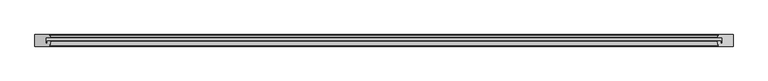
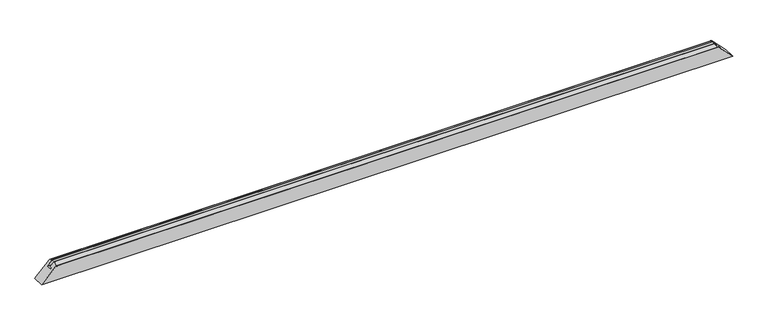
"""IFC4 building model written with IfcOpenShell, lengths in millimetres: proxy geometry, Weiku - Montante - Caixilho fixo 02.2.01.005 : Weiku - Montante - Caixilho fixo 02.2.01.005."""

from ifc_helpers import new_model, si_unit, frame, origin, place, context, project, spatial, ellipse_curve, source, transform, mapped, element, save
from ifc_brep_helpers import plane_surface, cylinder_surface, advanced_brep


def generic_models_aa0bd3a1(model_context):
    return source(origin(), model_context, "Body", "AdvancedBrep", [
        advanced_brep(
        [(-1430.618227, 38.5070552, 66.881773), (-1433.1019557, 47.7764571, 64.3980443), (-1435.9997332, 50.0, 61.5002668), (-1497.5, 50.0, 0.0), (-1497.5, 0.0, 0.0), (-1435.0355572, 0.0, 62.4644428), (-1434.0489094, 0.8371317, 63.4510906), (-1430.4998537, 22.3371317, 67.0001463), (-1431.4865015, 23.5, 66.0134985), (-1445.5009154, 23.5, 51.9990846), (-1445.5009154, 12.5, 51.9990846), (-1451.5, 12.5, 46.0), (-1451.5, 37.5, 46.0), (-1431.3909676, 37.5, 66.1090324), (1433.1019557, 47.7764571, 64.3980443), (1430.618227, 38.5070552, 66.881773), (1431.3909676, 37.5, 66.1090324), (1451.5, 37.5, 46.0), (1451.5, 12.5, 46.0), (1445.5009154, 12.5, 51.9990846), (1445.5009154, 23.5, 51.9990846), (1431.4865015, 23.5, 66.0134985), (1430.4998537, 22.3371317, 67.0001463), (1434.0489094, 0.8371317, 63.4510906), (1435.0355572, 0.0, 62.4644428), (1497.5, 0.0, 0.0), (1497.5, 50.0, 0.0), (1435.9997332, 50.0, 61.5002668)],
        [
            (0, 1),
            (1, 2, ellipse_curve(frame((-1435.9997332, 47.0, 61.5002668), z_axis=(-0.7071067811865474, 0.0, 0.7071067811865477), x_axis=(-0.7071067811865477, 0.0, -0.7071067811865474)), 4.2426407, 3.0)),
            (2, 3),
            (3, 4),
            (4, 5),
            (5, 6, ellipse_curve(frame((-1435.0355572, 1.0, 62.4644428), z_axis=(-0.7071067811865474, 0.0, 0.7071067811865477), x_axis=(-0.7071067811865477, 0.0, -0.7071067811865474)), 1.4142136, 1.0)),
            (6, 7),
            (7, 8, ellipse_curve(frame((-1431.4865015, 22.5, 66.0134985), z_axis=(-0.7071067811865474, 0.0, 0.7071067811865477), x_axis=(-0.7071067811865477, 0.0, -0.7071067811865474)), 1.4142136, 1.0)),
            (8, 9),
            (9, 10),
            (10, 11),
            (11, 12),
            (12, 13),
            (13, 0, ellipse_curve(frame((-1431.3909676, 38.3, 66.1090324), z_axis=(-0.7071067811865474, 0.0, 0.7071067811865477), x_axis=(-0.7071067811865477, 0.0, -0.7071067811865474)), 1.1313708, 0.8)),
            (14, 15),
            (15, 16, ellipse_curve(frame((1431.3909676, 38.3, 66.1090324), z_axis=(0.7071067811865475, 0.0, 0.7071067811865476), x_axis=(-0.7071067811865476, 0.0, 0.7071067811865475)), 1.1313708, 0.8)),
            (16, 17),
            (17, 18),
            (18, 19),
            (19, 20),
            (20, 21),
            (21, 22, ellipse_curve(frame((1431.4865015, 22.5, 66.0134985), z_axis=(0.7071067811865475, 0.0, 0.7071067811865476), x_axis=(-0.7071067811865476, 0.0, 0.7071067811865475)), 1.4142136, 1.0)),
            (22, 23),
            (23, 24, ellipse_curve(frame((1435.0355572, 1.0, 62.4644428), z_axis=(0.7071067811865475, 0.0, 0.7071067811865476), x_axis=(-0.7071067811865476, 0.0, 0.7071067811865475)), 1.4142136, 1.0)),
            (24, 25),
            (25, 26),
            (26, 27),
            (27, 14, ellipse_curve(frame((1435.9997332, 47.0, 61.5002668), z_axis=(0.7071067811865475, 0.0, 0.7071067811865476), x_axis=(-0.7071067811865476, 0.0, 0.7071067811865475)), 4.2426407, 3.0)),
            (0, 15),
            (14, 1),
            (27, 2),
            (26, 3),
            (25, 4),
            (24, 5),
            (23, 6),
            (22, 7),
            (21, 8),
            (20, 9),
            (19, 10),
            (18, 11),
            (17, 12),
            (16, 13),
        ],
        [
            plane_surface(frame((-1567.5, -15.0, -70.0), z_axis=(-0.7071067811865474, 0.0, 0.7071067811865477), x_axis=(0.0, 1.0, 0.0))),
            plane_surface(frame((1427.5, -15.0, 70.0), z_axis=(0.7071067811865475, 0.0, 0.7071067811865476), x_axis=(0.0, 1.0, 0.0))),
            plane_surface(frame((-1497.5, 38.5070552, 66.881773), z_axis=(0.0, 0.2588190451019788, 0.9659258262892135), x_axis=(1.0, 0.0, 0.0))),
            cylinder_surface(frame((-1497.5, 47.0, 61.5002668), z_axis=(-1.0, 0.0, 0.0), x_axis=(0.0, -1.0, 0.0)), 3.0),
            plane_surface(frame((-1497.5, 50.0, 61.5002668), z_axis=(0.0, 1.0, 0.0), x_axis=(1.0, 0.0, 0.0))),
            plane_surface(frame((-1497.5, 50.0, 0.0), z_axis=(0.0, 0.0, -1.0), x_axis=(1.0, 0.0, 0.0))),
            plane_surface(frame((-1497.5, 0.0, 0.0), z_axis=(0.0, -1.0, 0.0), x_axis=(1.0, 0.0, 0.0))),
            cylinder_surface(frame((-1497.5, 1.0, 62.4644428), z_axis=(-1.0, 0.0, 0.0), x_axis=(0.0, 1.0, 0.0)), 1.0),
            plane_surface(frame((-1497.5, 0.8371317, 63.4510906), z_axis=(0.0, -0.16286828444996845, 0.9866478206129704), x_axis=(1.0, 0.0, 0.0))),
            cylinder_surface(frame((-1497.5, 22.5, 66.0134985), z_axis=(-1.0, 0.0, 0.0), x_axis=(0.0, 1.0, 0.0)), 1.0),
            plane_surface(frame((-1497.5, 23.5, 66.0134985), z_axis=(0.0, 1.0, 0.0), x_axis=(1.0, 0.0, 0.0))),
            plane_surface(frame((-1497.5, 23.5, 51.9990846), z_axis=(0.0, 0.0, -1.0), x_axis=(1.0, 0.0, 0.0))),
            plane_surface(frame((-1497.5, 12.5, 51.9990846), z_axis=(0.0, 1.0, 0.0), x_axis=(1.0, 0.0, 0.0))),
            plane_surface(frame((-1497.5, 12.5, 46.0), z_axis=(0.0, 0.0, 1.0), x_axis=(1.0, 0.0, 0.0))),
            plane_surface(frame((-1497.5, 37.5, 46.0), z_axis=(0.0, -1.0, 0.0), x_axis=(1.0, 0.0, 0.0))),
            cylinder_surface(frame((-1497.5, 38.3, 66.1090324), z_axis=(-1.0, 0.0, 0.0), x_axis=(0.0, -1.0, 0.0)), 0.8),
        ],
        [
            (0, [[1, 2, 3, 4, 5, 6, 7, 8, 9, 10, 11, 12, 13, 14]]),
            (1, [[15, 16, 17, 18, 19, 20, 21, 22, 23, 24, 25, 26, 27, 28]]),
            (2, [[-1, 29, -15, 30]]),
            (3, [[-2, -30, -28, 31]]),
            (4, [[32, -3, -31, -27]]),
            (5, [[-32, -26, 33, -4]]),
            (6, [[-33, -25, 34, -5]]),
            (7, [[-6, -34, -24, 35]]),
            (8, [[-7, -35, -23, 36]]),
            (9, [[-8, -36, -22, 37]]),
            (10, [[-9, -37, -21, 38]]),
            (11, [[-10, -38, -20, 39]]),
            (12, [[-11, -39, -19, 40]]),
            (13, [[-12, -40, -18, 41]]),
            (14, [[-13, -41, -17, 42]]),
            (15, [[-14, -42, -16, -29]]),
        ],
    ),
    ])


if __name__ == "__main__":
    model = new_model("IFC4")
    model_context = context("Model", 3, world=origin())
    ifc_project = project(units=[si_unit("LENGTHUNIT", "METRE", prefix="MILLI")], contexts=[model_context])
    site = spatial("IfcSite", under=ifc_project)
    building = spatial("IfcBuilding", under=site)
    placement = place(None, origin())
    generic_models_shape = generic_models_aa0bd3a1(model_context)
    element("IfcBuildingElementProxy", 1, Name="Weiku - Montante - Caixilho fixo 02.2.01.005 : Weiku - Montante - Caixilho fixo 02.2.01.005", ObjectType="Weiku - Montante - Caixilho fixo 02.2.01.005 : Weiku - Montante - Caixilho fixo 02.2.01.005", at=placement, inside=building, context=model_context, shape_type="MappedRepresentation", body=[
        mapped(generic_models_shape, transform((0.0, 0.0, 0.0), x_axis=(1.0, 0.0, 0.0), y_axis=(0.0, 1.0, 0.0), z_axis=(0.0, 0.0, 1.0))),
    ])
    save(model, "model.ifc")
